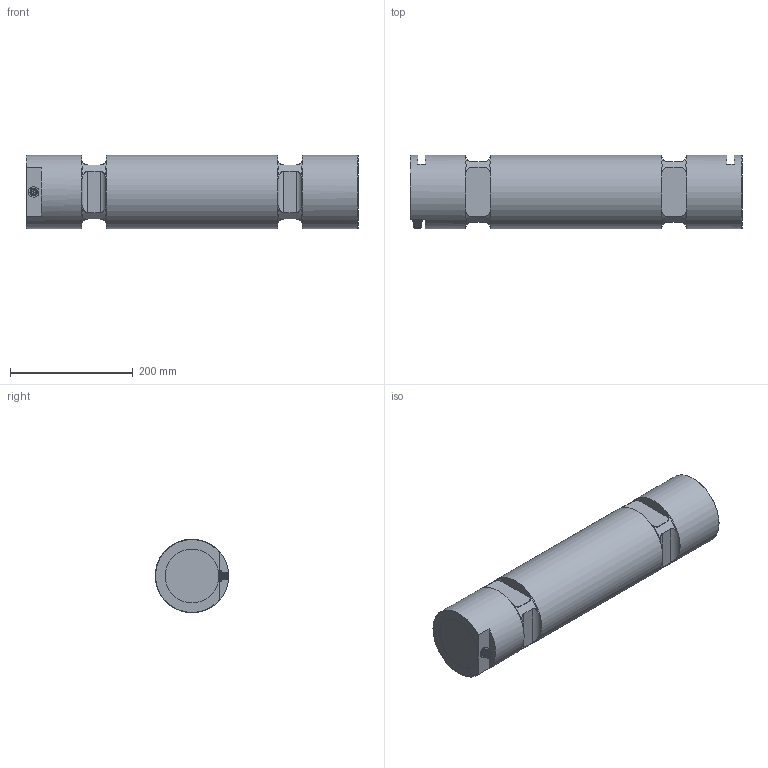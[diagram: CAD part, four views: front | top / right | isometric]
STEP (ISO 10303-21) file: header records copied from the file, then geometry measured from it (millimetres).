
FILE_DESCRIPTION(/* description */ ('Alibre Inc.'),/* implementation_level */ '2;1');
FILE_NAME(/* name */ 'export-9F4EACD2-65C7-4BB1-A849-6CCA668158CC',/* time_stamp */ '2020-04-17T09:03:55+02:00',/* author */ (''),/* organization */ (''),/* preprocessor_version */ 'ST-DEVELOPER v17',/* originating_system */ 'Alibre',/* authorisation */ '');
FILE_SCHEMA (('CONFIG_CONTROL_DESIGN'));
Length unit declared in the file: centimetre
Bounding box: 542 x 120 x 120 mm (x, y, z)
Volume: 5978168.4 mm3; surface area: 393668.4 mm2
Topology: 7 solids, 8 shells, 264 faces, 584 edges, 346 vertices
Faces by surface type: cylinder 91, plane 83, cone 72, torus 18
Full cylindrical faces by diameter (mm): 0.5 x10, 8 x2, 10 x3, 10.3 x1, 11 x1, 11.5 x1, 12 x21, 13 x2, 14.5 x1, 88 x1, 120 x3
Entity records: 6694 total; most frequent: CARTESIAN_POINT 1801, ORIENTED_EDGE 952, DIRECTION 768, EDGE_CURVE 470, FACE_BOUND 385, EDGE_LOOP 384, AXIS2_PLACEMENT_3D 356, VERTEX_POINT 331
